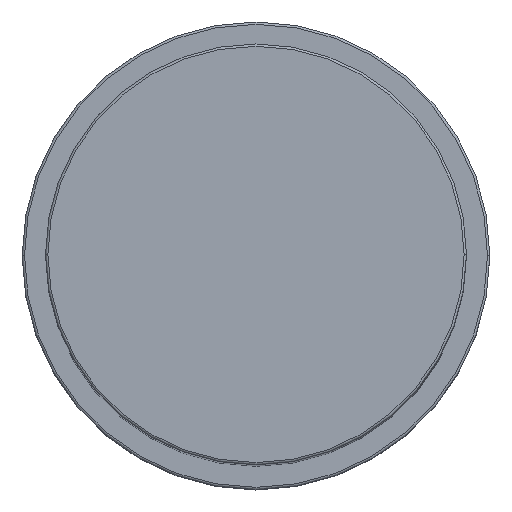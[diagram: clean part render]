
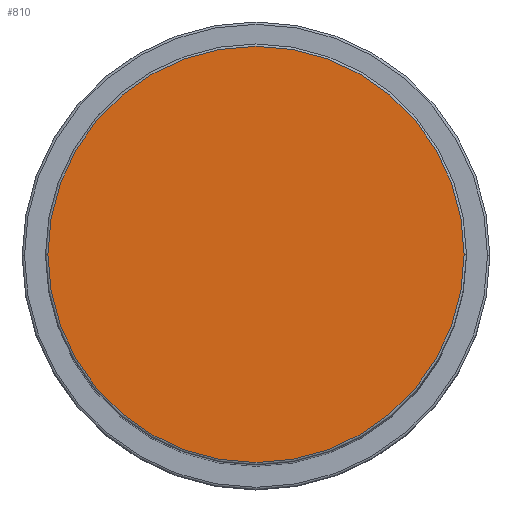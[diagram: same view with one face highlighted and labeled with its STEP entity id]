
A CAD part, top view. The second image highlights one B-rep face of the part: STEP entity #810.
In plain terms, the highlighted planar face has unit normal (0, 0, 1).
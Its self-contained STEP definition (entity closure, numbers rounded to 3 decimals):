
#20 = VERTEX_POINT ( 'NONE', #1441 ) ;
#151 = AXIS2_PLACEMENT_3D ( 'NONE', #1601, #191, #172 ) ;
#168 = CARTESIAN_POINT ( 'NONE',  ( 44.5, 0., 194. ) ) ;
#172 = DIRECTION ( 'NONE',  ( 1., 0., 0. ) ) ;
#185 = FACE_OUTER_BOUND ( 'NONE', #1130, .T. ) ;
#191 = DIRECTION ( 'NONE',  ( 0., 0., 1. ) ) ;
#383 = ORIENTED_EDGE ( 'NONE', *, *, #932, .T. ) ;
#386 = DIRECTION ( 'NONE',  ( 1., 0., 0. ) ) ;
#398 = CARTESIAN_POINT ( 'NONE',  ( 0., 0., 194. ) ) ;
#466 = DIRECTION ( 'NONE',  ( 1., 0., 0. ) ) ;
#525 = EDGE_CURVE ( 'NONE', #1439, #20, #1291, .T. ) ;
#530 = PLANE ( 'NONE',  #1568 ) ;
#576 = ORIENTED_EDGE ( 'NONE', *, *, #525, .T. ) ;
#679 = DIRECTION ( 'NONE',  ( 0., 0., 1. ) ) ;
#810 = ADVANCED_FACE ( 'NONE', ( #185 ), #530, .T. ) ;
#844 = CIRCLE ( 'NONE', #151, 44.5 ) ;
#875 = AXIS2_PLACEMENT_3D ( 'NONE', #930, #679, #466 ) ;
#930 = CARTESIAN_POINT ( 'NONE',  ( 0., 0., 194. ) ) ;
#932 = EDGE_CURVE ( 'NONE', #20, #1439, #844, .T. ) ;
#1130 = EDGE_LOOP ( 'NONE', ( #576, #383 ) ) ;
#1154 = DIRECTION ( 'NONE',  ( 0., 0., 1. ) ) ;
#1291 = CIRCLE ( 'NONE', #875, 44.5 ) ;
#1439 = VERTEX_POINT ( 'NONE', #168 ) ;
#1441 = CARTESIAN_POINT ( 'NONE',  ( -44.5, 0., 194. ) ) ;
#1568 = AXIS2_PLACEMENT_3D ( 'NONE', #398, #1154, #386 ) ;
#1601 = CARTESIAN_POINT ( 'NONE',  ( 0., 0., 194. ) ) ;
